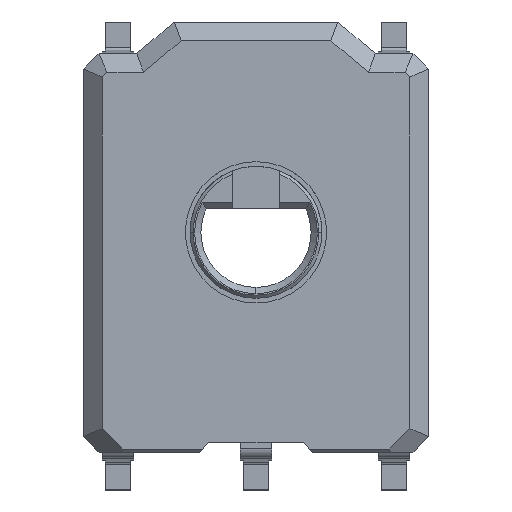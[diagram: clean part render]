
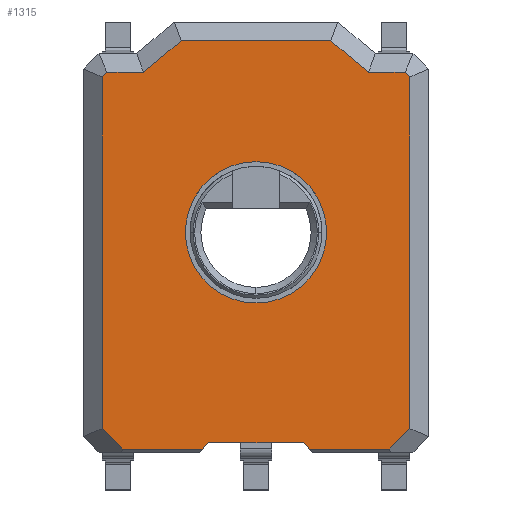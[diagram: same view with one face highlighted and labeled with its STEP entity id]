
A CAD part, top view. The second image highlights one B-rep face of the part: STEP entity #1315.
In plain terms, the highlighted planar face has unit normal (0, 0, 1).
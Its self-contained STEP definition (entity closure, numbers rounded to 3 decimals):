
#2 = VERTEX_POINT ( 'NONE', #3274 ) ;
#39 = VERTEX_POINT ( 'NONE', #3305 ) ;
#1021 = VERTEX_POINT ( 'NONE', #6399 ) ;
#1030 = VERTEX_POINT ( 'NONE', #6420 ) ;
#1033 = VERTEX_POINT ( 'NONE', #6463 ) ;
#1036 = EDGE_CURVE ( 'NONE', #1039, #1030, #6457, .T. ) ;
#1039 = VERTEX_POINT ( 'NONE', #6450 ) ;
#1051 = EDGE_CURVE ( 'NONE', #1021, #1033, #6479, .T. ) ;
#1140 = VERTEX_POINT ( 'NONE', #6651 ) ;
#1185 = EDGE_CURVE ( 'NONE', #1198, #1206, #6806, .T. ) ;
#1186 = VERTEX_POINT ( 'NONE', #6807 ) ;
#1189 = EDGE_CURVE ( 'NONE', #1140, #1193, #6738, .T. ) ;
#1193 = VERTEX_POINT ( 'NONE', #6793 ) ;
#1198 = VERTEX_POINT ( 'NONE', #6785 ) ;
#1203 = EDGE_CURVE ( 'NONE', #1193, #1198, #6818, .T. ) ;
#1206 = VERTEX_POINT ( 'NONE', #6825 ) ;
#1210 = EDGE_CURVE ( 'NONE', #2196, #2181, #6812, .T. ) ;
#1223 = EDGE_CURVE ( 'NONE', #1039, #1234, #6931, .T. ) ;
#1233 = EDGE_CURVE ( 'NONE', #1186, #1033, #6956, .T. ) ;
#1234 = VERTEX_POINT ( 'NONE', #6967 ) ;
#1242 = EDGE_CURVE ( 'NONE', #1021, #1030, #6997, .T. ) ;
#1246 = EDGE_CURVE ( 'NONE', #1206, #1186, #6987, .T. ) ;
#1258 = EDGE_CURVE ( 'NONE', #2, #1337, #7010, .T. ) ;
#1262 = VERTEX_POINT ( 'NONE', #7012 ) ;
#1276 = EDGE_CURVE ( 'NONE', #1282, #2, #7103, .T. ) ;
#1279 = EDGE_CURVE ( 'NONE', #1292, #39, #7109, .T. ) ;
#1282 = VERTEX_POINT ( 'NONE', #7141 ) ;
#1283 = EDGE_CURVE ( 'NONE', #39, #1282, #7134, .T. ) ;
#1292 = VERTEX_POINT ( 'NONE', #7166 ) ;
#1296 = EDGE_CURVE ( 'NONE', #1234, #1292, #7201, .T. ) ;
#1305 = ORIENTED_EDGE ( 'NONE', *, *, #1246, .T. ) ;
#1306 = ORIENTED_EDGE ( 'NONE', *, *, #1296, .T. ) ;
#1307 = ORIENTED_EDGE ( 'NONE', *, *, #1051, .F. ) ;
#1308 = ORIENTED_EDGE ( 'NONE', *, *, #1283, .T. ) ;
#1309 = ORIENTED_EDGE ( 'NONE', *, *, #1036, .F. ) ;
#1310 = ORIENTED_EDGE ( 'NONE', *, *, #1258, .T. ) ;
#1311 = ORIENTED_EDGE ( 'NONE', *, *, #1279, .T. ) ;
#1314 = EDGE_LOOP ( 'NONE', ( #1318, #1319, #1317, #1321, #1323, #1305, #1320, #1307, #1322, #1309, #1325, #1306, #1311, #1308, #1371, #1310 ) ) ;
#1315 = ADVANCED_FACE ( 'NONE', ( #7174, #7191 ), #7188, .T. ) ;
#1317 = ORIENTED_EDGE ( 'NONE', *, *, #1189, .T. ) ;
#1318 = ORIENTED_EDGE ( 'NONE', *, *, #1326, .T. ) ;
#1319 = ORIENTED_EDGE ( 'NONE', *, *, #1331, .T. ) ;
#1320 = ORIENTED_EDGE ( 'NONE', *, *, #1233, .T. ) ;
#1321 = ORIENTED_EDGE ( 'NONE', *, *, #1203, .T. ) ;
#1322 = ORIENTED_EDGE ( 'NONE', *, *, #1242, .T. ) ;
#1323 = ORIENTED_EDGE ( 'NONE', *, *, #1185, .T. ) ;
#1325 = ORIENTED_EDGE ( 'NONE', *, *, #1223, .T. ) ;
#1326 = EDGE_CURVE ( 'NONE', #1337, #1262, #7185, .T. ) ;
#1328 = ORIENTED_EDGE ( 'NONE', *, *, #2234, .T. ) ;
#1330 = EDGE_LOOP ( 'NONE', ( #1328, #1334 ) ) ;
#1331 = EDGE_CURVE ( 'NONE', #1262, #1140, #7210, .T. ) ;
#1334 = ORIENTED_EDGE ( 'NONE', *, *, #1210, .T. ) ;
#1337 = VERTEX_POINT ( 'NONE', #7248 ) ;
#1371 = ORIENTED_EDGE ( 'NONE', *, *, #1276, .T. ) ;
#2181 = VERTEX_POINT ( 'NONE', #9589 ) ;
#2196 = VERTEX_POINT ( 'NONE', #9646 ) ;
#2234 = EDGE_CURVE ( 'NONE', #2181, #2196, #9771, .T. ) ;
#3274 = CARTESIAN_POINT ( 'NONE',  ( 3.583, 5.1, 3.2 ) ) ;
#3305 = CARTESIAN_POINT ( 'NONE',  ( 4.9, 4.951, 3.2 ) ) ;
#6399 = CARTESIAN_POINT ( 'NONE',  ( -1.5, -6.7, 3.2 ) ) ;
#6420 = CARTESIAN_POINT ( 'NONE',  ( 1.5, -6.7, 3.2 ) ) ;
#6450 = CARTESIAN_POINT ( 'NONE',  ( 1.7, -6.9, 3.2 ) ) ;
#6451 = DIRECTION ( 'NONE',  ( -0.707, 0.707, 0. ) ) ;
#6452 = VECTOR ( 'NONE', #6451, 1000. ) ;
#6456 = CARTESIAN_POINT ( 'NONE',  ( 1.8, -7., 3.2 ) ) ;
#6457 = LINE ( 'NONE', #6456, #6452 ) ;
#6463 = CARTESIAN_POINT ( 'NONE',  ( -1.7, -6.9, 3.2 ) ) ;
#6476 = DIRECTION ( 'NONE',  ( -0.707, -0.707, 0. ) ) ;
#6477 = VECTOR ( 'NONE', #6476, 1000. ) ;
#6478 = CARTESIAN_POINT ( 'NONE',  ( -1.8, -7., 3.2 ) ) ;
#6479 = LINE ( 'NONE', #6478, #6477 ) ;
#6651 = CARTESIAN_POINT ( 'NONE',  ( -3.583, 5.1, 3.2 ) ) ;
#6737 = CARTESIAN_POINT ( 'NONE',  ( 0., 5.1, 3.2 ) ) ;
#6738 = LINE ( 'NONE', #6737, #6796 ) ;
#6769 = DIRECTION ( 'NONE',  ( 0., -1., 0. ) ) ;
#6770 = CARTESIAN_POINT ( 'NONE',  ( -4.9, 0., 3.2 ) ) ;
#6785 = CARTESIAN_POINT ( 'NONE',  ( -4.9, 4.951, 3.2 ) ) ;
#6793 = CARTESIAN_POINT ( 'NONE',  ( -4.751, 5.1, 3.2 ) ) ;
#6795 = DIRECTION ( 'NONE',  ( -1., 0., 0. ) ) ;
#6796 = VECTOR ( 'NONE', #6795, 1000. ) ;
#6802 = VECTOR ( 'NONE', #6769, 1000. ) ;
#6806 = LINE ( 'NONE', #6770, #6802 ) ;
#6807 = CARTESIAN_POINT ( 'NONE',  ( -4.251, -6.9, 3.2 ) ) ;
#6812 = CIRCLE ( 'NONE', #6848, 2.25 ) ;
#6813 = DIRECTION ( 'NONE',  ( -0.707, -0.707, 0. ) ) ;
#6814 = VECTOR ( 'NONE', #6813, 1000. ) ;
#6817 = CARTESIAN_POINT ( 'NONE',  ( -4.751, 5.1, 3.2 ) ) ;
#6818 = LINE ( 'NONE', #6817, #6814 ) ;
#6825 = CARTESIAN_POINT ( 'NONE',  ( -4.9, -6.251, 3.2 ) ) ;
#6846 = DIRECTION ( 'NONE',  ( 1., 0., 0. ) ) ;
#6847 = DIRECTION ( 'NONE',  ( 0., 0., -1. ) ) ;
#6848 = AXIS2_PLACEMENT_3D ( 'NONE', #6852, #6847, #6846 ) ;
#6852 = CARTESIAN_POINT ( 'NONE',  ( 0., 0., 3.2 ) ) ;
#6928 = DIRECTION ( 'NONE',  ( 1., 0., 0. ) ) ;
#6929 = VECTOR ( 'NONE', #6928, 1000. ) ;
#6930 = CARTESIAN_POINT ( 'NONE',  ( 0., -6.9, 3.2 ) ) ;
#6931 = LINE ( 'NONE', #6930, #6929 ) ;
#6953 = DIRECTION ( 'NONE',  ( 1., 0., 0. ) ) ;
#6954 = VECTOR ( 'NONE', #6953, 1000. ) ;
#6955 = CARTESIAN_POINT ( 'NONE',  ( 0., -6.9, 3.2 ) ) ;
#6956 = LINE ( 'NONE', #6955, #6954 ) ;
#6967 = CARTESIAN_POINT ( 'NONE',  ( 4.251, -6.9, 3.2 ) ) ;
#6986 = CARTESIAN_POINT ( 'NONE',  ( -4.9, -6.251, 3.2 ) ) ;
#6987 = LINE ( 'NONE', #6986, #7021 ) ;
#6988 = DIRECTION ( 'NONE',  ( 1., 0., 0. ) ) ;
#6989 = VECTOR ( 'NONE', #6988, 1000. ) ;
#6990 = CARTESIAN_POINT ( 'NONE',  ( 0., -6.7, 3.2 ) ) ;
#6997 = LINE ( 'NONE', #6990, #6989 ) ;
#7010 = LINE ( 'NONE', #7052, #7051 ) ;
#7012 = CARTESIAN_POINT ( 'NONE',  ( -2.383, 6.1, 3.2 ) ) ;
#7020 = DIRECTION ( 'NONE',  ( 0.707, -0.707, 0. ) ) ;
#7021 = VECTOR ( 'NONE', #7020, 1000. ) ;
#7050 = DIRECTION ( 'NONE',  ( -0.768, 0.64, 0. ) ) ;
#7051 = VECTOR ( 'NONE', #7050, 1000. ) ;
#7052 = CARTESIAN_POINT ( 'NONE',  ( 3.583, 5.1, 3.2 ) ) ;
#7100 = DIRECTION ( 'NONE',  ( -1., 0., 0. ) ) ;
#7101 = VECTOR ( 'NONE', #7100, 1000. ) ;
#7102 = CARTESIAN_POINT ( 'NONE',  ( 0., 5.1, 3.2 ) ) ;
#7103 = LINE ( 'NONE', #7102, #7101 ) ;
#7108 = CARTESIAN_POINT ( 'NONE',  ( 4.9, 0., 3.2 ) ) ;
#7109 = LINE ( 'NONE', #7108, #7144 ) ;
#7128 = DIRECTION ( 'NONE',  ( -0.707, 0.707, 0. ) ) ;
#7129 = VECTOR ( 'NONE', #7128, 1000. ) ;
#7130 = CARTESIAN_POINT ( 'NONE',  ( 4.9, 4.951, 3.2 ) ) ;
#7134 = LINE ( 'NONE', #7130, #7129 ) ;
#7141 = CARTESIAN_POINT ( 'NONE',  ( 4.751, 5.1, 3.2 ) ) ;
#7143 = DIRECTION ( 'NONE',  ( 0., 1., 0. ) ) ;
#7144 = VECTOR ( 'NONE', #7143, 1000. ) ;
#7166 = CARTESIAN_POINT ( 'NONE',  ( 4.9, -6.251, 3.2 ) ) ;
#7174 = FACE_BOUND ( 'NONE', #1330, .T. ) ;
#7185 = LINE ( 'NONE', #7232, #7208 ) ;
#7188 = PLANE ( 'NONE',  #7214 ) ;
#7191 = FACE_OUTER_BOUND ( 'NONE', #1314, .T. ) ;
#7192 = VECTOR ( 'NONE', #7202, 1000. ) ;
#7201 = LINE ( 'NONE', #7203, #7192 ) ;
#7202 = DIRECTION ( 'NONE',  ( 0.707, 0.707, 0. ) ) ;
#7203 = CARTESIAN_POINT ( 'NONE',  ( 4.251, -6.9, 3.2 ) ) ;
#7208 = VECTOR ( 'NONE', #7231, 1000. ) ;
#7210 = LINE ( 'NONE', #7237, #7236 ) ;
#7211 = DIRECTION ( 'NONE',  ( 1., 0., 0. ) ) ;
#7212 = DIRECTION ( 'NONE',  ( 0., 0., 1. ) ) ;
#7213 = CARTESIAN_POINT ( 'NONE',  ( 0., 0., 3.2 ) ) ;
#7214 = AXIS2_PLACEMENT_3D ( 'NONE', #7213, #7212, #7211 ) ;
#7231 = DIRECTION ( 'NONE',  ( -1., 0., 0. ) ) ;
#7232 = CARTESIAN_POINT ( 'NONE',  ( 0., 6.1, 3.2 ) ) ;
#7235 = DIRECTION ( 'NONE',  ( -0.768, -0.64, 0. ) ) ;
#7236 = VECTOR ( 'NONE', #7235, 1000. ) ;
#7237 = CARTESIAN_POINT ( 'NONE',  ( -2.383, 6.1, 3.2 ) ) ;
#7248 = CARTESIAN_POINT ( 'NONE',  ( 2.383, 6.1, 3.2 ) ) ;
#9589 = CARTESIAN_POINT ( 'NONE',  ( 2.25, 0., 3.2 ) ) ;
#9646 = CARTESIAN_POINT ( 'NONE',  ( -2.25, 0., 3.2 ) ) ;
#9771 = CIRCLE ( 'NONE', #9820, 2.25 ) ;
#9786 = CARTESIAN_POINT ( 'NONE',  ( 0., 0., 3.2 ) ) ;
#9811 = DIRECTION ( 'NONE',  ( 1., 0., 0. ) ) ;
#9812 = DIRECTION ( 'NONE',  ( 0., 0., -1. ) ) ;
#9820 = AXIS2_PLACEMENT_3D ( 'NONE', #9786, #9812, #9811 ) ;
